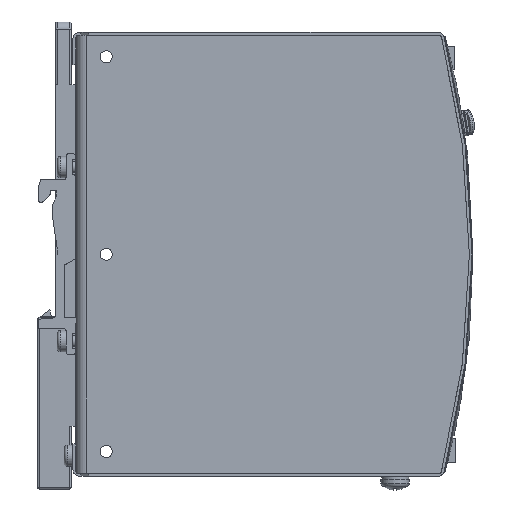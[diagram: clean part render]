
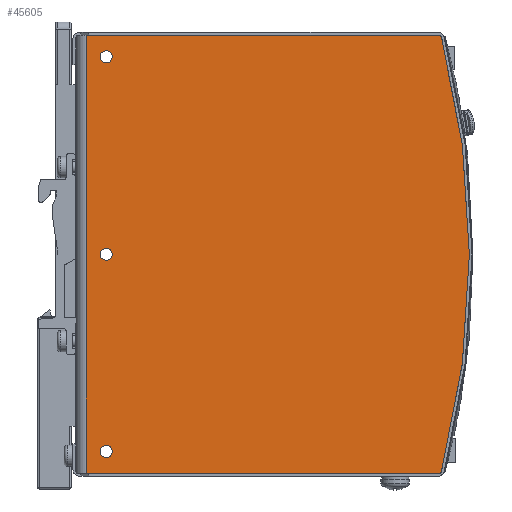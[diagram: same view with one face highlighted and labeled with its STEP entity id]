
A CAD part, front view. The second image highlights one B-rep face of the part: STEP entity #45605.
In plain terms, the highlighted planar face has unit normal (0, -1, 0) as drawn and (1, 0, 0) by its records, which use the part's own axes.
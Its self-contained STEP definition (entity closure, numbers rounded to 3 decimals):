
#1579=LINE('',#61801,#6800);
#1580=LINE('',#61803,#6801);
#1581=LINE('',#61805,#6802);
#6800=VECTOR('',#50921,98.693);
#6801=VECTOR('',#50922,122.3);
#6802=VECTOR('',#50923,98.693);
#12010=PLANE('',#48037);
#13811=FACE_BOUND('',#16925,.T.);
#13812=FACE_BOUND('',#16926,.T.);
#13813=FACE_BOUND('',#16927,.T.);
#14517=FACE_OUTER_BOUND('',#16924,.T.);
#16924=EDGE_LOOP('',(#31946,#31947,#31948,#31949,#31950,#31951));
#16925=EDGE_LOOP('',(#31952));
#16926=EDGE_LOOP('',(#31953));
#16927=EDGE_LOOP('',(#31954));
#20003=CIRCLE('',#48007,1.7);
#20007=CIRCLE('',#48013,1.7);
#20011=CIRCLE('',#48019,1.7);
#20017=CIRCLE('',#48032,0.5);
#20019=CIRCLE('',#48035,240.);
#20021=CIRCLE('',#48038,0.5);
#20671=VERTEX_POINT('',#61726);
#20675=VERTEX_POINT('',#61736);
#20679=VERTEX_POINT('',#61746);
#20693=VERTEX_POINT('',#61785);
#20694=VERTEX_POINT('',#61786);
#20697=VERTEX_POINT('',#61794);
#20699=VERTEX_POINT('',#61800);
#20700=VERTEX_POINT('',#61802);
#20701=VERTEX_POINT('',#61804);
#25166=EDGE_CURVE('',#20671,#20671,#20003,.T.);
#25170=EDGE_CURVE('',#20675,#20675,#20007,.T.);
#25174=EDGE_CURVE('',#20679,#20679,#20011,.T.);
#25192=EDGE_CURVE('',#20693,#20694,#20017,.T.);
#25196=EDGE_CURVE('',#20697,#20694,#20019,.T.);
#25199=EDGE_CURVE('',#20693,#20699,#1579,.T.);
#25200=EDGE_CURVE('',#20700,#20699,#1580,.T.);
#25201=EDGE_CURVE('',#20700,#20701,#1581,.T.);
#25202=EDGE_CURVE('',#20697,#20701,#20021,.T.);
#31946=ORIENTED_EDGE('',*,*,#25192,.F.);
#31947=ORIENTED_EDGE('',*,*,#25199,.T.);
#31948=ORIENTED_EDGE('',*,*,#25200,.F.);
#31949=ORIENTED_EDGE('',*,*,#25201,.T.);
#31950=ORIENTED_EDGE('',*,*,#25202,.F.);
#31951=ORIENTED_EDGE('',*,*,#25196,.T.);
#31952=ORIENTED_EDGE('',*,*,#25166,.T.);
#31953=ORIENTED_EDGE('',*,*,#25170,.T.);
#31954=ORIENTED_EDGE('',*,*,#25174,.T.);
#45605=ADVANCED_FACE('',(#14517,#13811,#13812,#13813),#12010,.T.);
#48007=AXIS2_PLACEMENT_3D('',#61727,#50844,#50845);
#48013=AXIS2_PLACEMENT_3D('',#61737,#50856,#50857);
#48019=AXIS2_PLACEMENT_3D('',#61747,#50868,#50869);
#48032=AXIS2_PLACEMENT_3D('',#61787,#50906,#50907);
#48035=AXIS2_PLACEMENT_3D('',#61795,#50914,#50915);
#48037=AXIS2_PLACEMENT_3D('',#61799,#50919,#50920);
#48038=AXIS2_PLACEMENT_3D('',#61806,#50924,#50925);
#50844=DIRECTION('center_axis',(-1.,0.,0.));
#50845=DIRECTION('ref_axis',(0.,0.,
-1.));
#50856=DIRECTION('center_axis',(-1.,0.,0.));
#50857=DIRECTION('ref_axis',(0.,0.,
-1.));
#50868=DIRECTION('center_axis',(-1.,0.,0.));
#50869=DIRECTION('ref_axis',(0.,0.,
-1.));
#50906=DIRECTION('center_axis',(-1.,0.,0.));
#50907=DIRECTION('ref_axis',(0.,0.792,-0.611));
#50914=DIRECTION('center_axis',(1.,0.,0.));
#50915=DIRECTION('ref_axis',(0.,0.,1.));
#50919=DIRECTION('center_axis',(1.,0.,0.));
#50920=DIRECTION('ref_axis',(0.,0.,-1.));
#50921=DIRECTION('',(0.,0.,1.));
#50922=DIRECTION('',(0.,1.,0.));
#50923=DIRECTION('',(0.,0.,-1.));
#50924=DIRECTION('center_axis',(-1.,0.,0.));
#50925=DIRECTION('ref_axis',(0.,-0.792,-0.611));
#61726=CARTESIAN_POINT('',(21.,-55.15,-5.3));
#61727=CARTESIAN_POINT('Origin',(21.,-55.15,-7.));
#61736=CARTESIAN_POINT('',(21.,0.,-5.3));
#61737=CARTESIAN_POINT('Origin',(21.,0.,-7.));
#61746=CARTESIAN_POINT('',(21.,55.15,-5.3));
#61747=CARTESIAN_POINT('Origin',(21.,55.15,-7.));
#61785=CARTESIAN_POINT('',(21.,61.15,-100.193));
#61786=CARTESIAN_POINT('',(21.,60.777,-100.677));
#61787=CARTESIAN_POINT('Origin',(21.,60.65,-100.193));
#61794=CARTESIAN_POINT('',(21.,-60.777,-100.677));
#61795=CARTESIAN_POINT('Origin',(21.,0.,131.5));
#61799=CARTESIAN_POINT('Origin',(21.,61.15,1.5));
#61800=CARTESIAN_POINT('',(21.,61.15,-1.5));
#61801=CARTESIAN_POINT('',(21.,61.15,-128.5));
#61802=CARTESIAN_POINT('',(21.,-61.15,-1.5));
#61803=CARTESIAN_POINT('',(21.,61.15,-1.5));
#61804=CARTESIAN_POINT('',(21.,-61.15,-100.193));
#61805=CARTESIAN_POINT('',(21.,-61.15,-128.5));
#61806=CARTESIAN_POINT('Origin',(21.,-60.65,-100.193));
